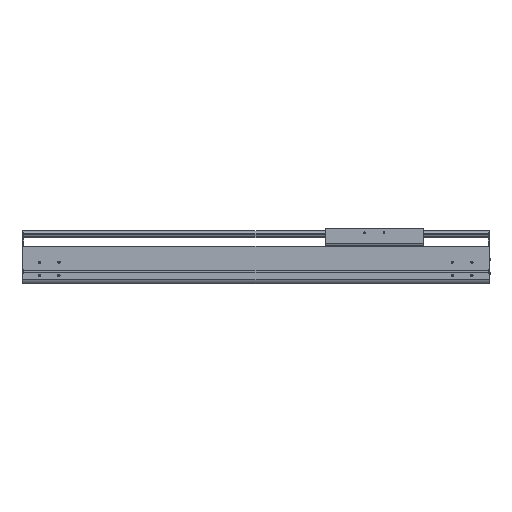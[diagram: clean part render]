
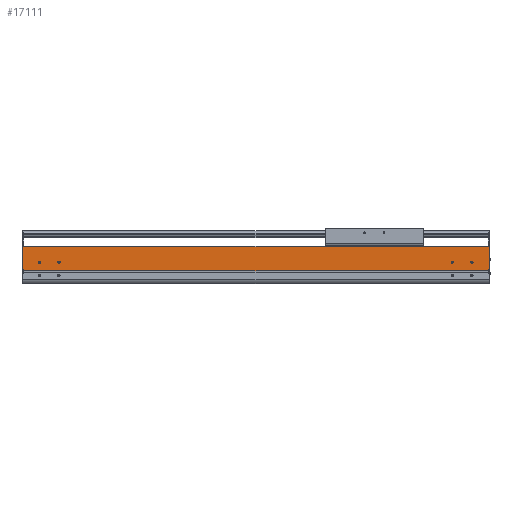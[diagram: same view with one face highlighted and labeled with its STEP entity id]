
A CAD part, top view. The second image highlights one B-rep face of the part: STEP entity #17111.
In plain terms, the highlighted planar face has unit normal (0, 0, 1).
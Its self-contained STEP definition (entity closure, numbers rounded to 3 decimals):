
#2873=DIRECTION('',(1.,0.,0.));
#2874=VECTOR('',#2873,2.);
#2875=CARTESIAN_POINT('',(-1186.,34.65,107.));
#2876=LINE('',#2875,#2874);
#2877=CARTESIAN_POINT('',(-42.,54.,107.));
#2878=DIRECTION('',(0.,0.,-1.));
#2879=DIRECTION('',(1.,0.,0.));
#2880=AXIS2_PLACEMENT_3D('',#2877,#2878,#2879);
#2882=CARTESIAN_POINT('',(-42.,54.,107.));
#2883=DIRECTION('',(0.,0.,-1.));
#2884=DIRECTION('',(-1.,0.,0.));
#2885=AXIS2_PLACEMENT_3D('',#2882,#2883,#2884);
#2887=CARTESIAN_POINT('',(-92.,54.,107.));
#2888=DIRECTION('',(0.,0.,-1.));
#2889=DIRECTION('',(1.,0.,0.));
#2890=AXIS2_PLACEMENT_3D('',#2887,#2888,#2889);
#2892=CARTESIAN_POINT('',(-92.,54.,107.));
#2893=DIRECTION('',(0.,0.,-1.));
#2894=DIRECTION('',(-1.,0.,0.));
#2895=AXIS2_PLACEMENT_3D('',#2892,#2893,#2894);
#2897=CARTESIAN_POINT('',(-1144.,54.,107.));
#2898=DIRECTION('',(0.,0.,-1.));
#2899=DIRECTION('',(1.,0.,0.));
#2900=AXIS2_PLACEMENT_3D('',#2897,#2898,#2899);
#2902=CARTESIAN_POINT('',(-1144.,54.,107.));
#2903=DIRECTION('',(0.,0.,-1.));
#2904=DIRECTION('',(-1.,0.,0.));
#2905=AXIS2_PLACEMENT_3D('',#2902,#2903,#2904);
#2907=CARTESIAN_POINT('',(-1094.,54.,107.));
#2908=DIRECTION('',(0.,0.,-1.));
#2909=DIRECTION('',(1.,0.,0.));
#2910=AXIS2_PLACEMENT_3D('',#2907,#2908,#2909);
#2912=CARTESIAN_POINT('',(-1094.,54.,107.));
#2913=DIRECTION('',(0.,0.,-1.));
#2914=DIRECTION('',(-1.,0.,0.));
#2915=AXIS2_PLACEMENT_3D('',#2912,#2913,#2914);
#2917=DIRECTION('',(0.,-1.,0.));
#2918=VECTOR('',#2917,2.55);
#2919=CARTESIAN_POINT('',(-1184.,34.65,107.));
#2920=LINE('',#2919,#2918);
#2921=DIRECTION('',(0.,-1.,0.));
#2922=VECTOR('',#2921,58.85);
#2923=CARTESIAN_POINT('',(-1186.,93.5,107.));
#2924=LINE('',#2923,#2922);
#2925=DIRECTION('',(0.,1.,0.));
#2926=VECTOR('',#2925,58.85);
#2927=CARTESIAN_POINT('',(2.,34.65,107.));
#2928=LINE('',#2927,#2926);
#2929=DIRECTION('',(0.,1.,0.));
#2930=VECTOR('',#2929,2.55);
#2931=CARTESIAN_POINT('',(0.,32.1,107.));
#2932=LINE('',#2931,#2930);
#3037=DIRECTION('',(-1.,0.,0.));
#3038=VECTOR('',#3037,1188.);
#3039=CARTESIAN_POINT('',(2.,93.5,107.));
#3040=LINE('',#3039,#3038);
#9867=DIRECTION('',(1.,0.,0.));
#9868=VECTOR('',#9867,2.);
#9869=CARTESIAN_POINT('',(0.,34.65,107.));
#9870=LINE('',#9869,#9868);
#9887=DIRECTION('',(1.,0.,0.));
#9888=VECTOR('',#9887,1184.);
#9889=CARTESIAN_POINT('',(-1184.,32.1,107.));
#9890=LINE('',#9889,#9888);
#11041=CARTESIAN_POINT('',(-1186.,34.65,107.));
#11042=VERTEX_POINT('',#11041);
#11043=CARTESIAN_POINT('',(-1186.,93.5,107.));
#11044=VERTEX_POINT('',#11043);
#11265=CARTESIAN_POINT('',(-1184.,32.1,107.));
#11266=VERTEX_POINT('',#11265);
#11337=CARTESIAN_POINT('',(0.,32.1,107.));
#11338=VERTEX_POINT('',#11337);
#11693=CARTESIAN_POINT('',(-39.5,54.,107.));
#11694=CARTESIAN_POINT('',(-44.5,54.,107.));
#11695=VERTEX_POINT('',#11693);
#11696=VERTEX_POINT('',#11694);
#11697=CARTESIAN_POINT('',(-89.5,54.,107.));
#11698=CARTESIAN_POINT('',(-94.5,54.,107.));
#11699=VERTEX_POINT('',#11697);
#11700=VERTEX_POINT('',#11698);
#11701=CARTESIAN_POINT('',(-1141.5,54.,107.));
#11702=CARTESIAN_POINT('',(-1146.5,54.,107.));
#11703=VERTEX_POINT('',#11701);
#11704=VERTEX_POINT('',#11702);
#11705=CARTESIAN_POINT('',(-1091.5,54.,107.));
#11706=CARTESIAN_POINT('',(-1096.5,54.,107.));
#11707=VERTEX_POINT('',#11705);
#11708=VERTEX_POINT('',#11706);
#12734=CARTESIAN_POINT('',(2.,34.65,107.));
#12735=VERTEX_POINT('',#12734);
#12736=CARTESIAN_POINT('',(2.,93.5,107.));
#12737=VERTEX_POINT('',#12736);
#12958=CARTESIAN_POINT('',(0.,34.65,107.));
#12959=VERTEX_POINT('',#12958);
#13270=CARTESIAN_POINT('',(-1184.,34.65,107.));
#13271=VERTEX_POINT('',#13270);
#17069=CARTESIAN_POINT('',(-592.,62.8,107.));
#17070=DIRECTION('',(0.,0.,1.));
#17071=DIRECTION('',(0.,-1.,0.));
#17072=AXIS2_PLACEMENT_3D('',#17069,#17070,#17071);
#17073=PLANE('',#17072);
#17074=ORIENTED_EDGE('',*,*,#14337,.F.);
#17075=ORIENTED_EDGE('',*,*,#17064,.F.);
#17076=ORIENTED_EDGE('',*,*,#14958,.F.);
#17078=ORIENTED_EDGE('',*,*,#17077,.F.);
#17079=ORIENTED_EDGE('',*,*,#14074,.F.);
#17081=ORIENTED_EDGE('',*,*,#17080,.F.);
#17082=ORIENTED_EDGE('',*,*,#16680,.F.);
#17084=ORIENTED_EDGE('',*,*,#17083,.F.);
#17085=EDGE_LOOP('',(#17074,#17075,#17076,#17078,#17079,#17081,#17082,#17084));
#17086=FACE_OUTER_BOUND('',#17085,.F.);
#17088=ORIENTED_EDGE('',*,*,#17087,.F.);
#17090=ORIENTED_EDGE('',*,*,#17089,.F.);
#17091=EDGE_LOOP('',(#17088,#17090));
#17092=FACE_BOUND('',#17091,.F.);
#17094=ORIENTED_EDGE('',*,*,#17093,.F.);
#17096=ORIENTED_EDGE('',*,*,#17095,.F.);
#17097=EDGE_LOOP('',(#17094,#17096));
#17098=FACE_BOUND('',#17097,.F.);
#17100=ORIENTED_EDGE('',*,*,#17099,.F.);
#17102=ORIENTED_EDGE('',*,*,#17101,.F.);
#17103=EDGE_LOOP('',(#17100,#17102));
#17104=FACE_BOUND('',#17103,.F.);
#17106=ORIENTED_EDGE('',*,*,#17105,.F.);
#17108=ORIENTED_EDGE('',*,*,#17107,.F.);
#17109=EDGE_LOOP('',(#17106,#17108));
#17110=FACE_BOUND('',#17109,.F.);
#17111=ADVANCED_FACE('',(#17086,#17092,#17098,#17104,#17110),#17073,.T.);
#2881=CIRCLE('',#2880,2.5);
#2886=CIRCLE('',#2885,2.5);
#2891=CIRCLE('',#2890,2.5);
#2896=CIRCLE('',#2895,2.5);
#2901=CIRCLE('',#2900,2.5);
#2906=CIRCLE('',#2905,2.5);
#2911=CIRCLE('',#2910,2.5);
#2916=CIRCLE('',#2915,2.5);
#14074=EDGE_CURVE('',#12735,#12737,#2928,.T.);
#14337=EDGE_CURVE('',#13271,#11266,#2920,.T.);
#14958=EDGE_CURVE('',#11044,#11042,#2924,.T.);
#16680=EDGE_CURVE('',#11338,#12959,#2932,.T.);
#17064=EDGE_CURVE('',#11042,#13271,#2876,.T.);
#17077=EDGE_CURVE('',#12737,#11044,#3040,.T.);
#17080=EDGE_CURVE('',#12959,#12735,#9870,.T.);
#17083=EDGE_CURVE('',#11266,#11338,#9890,.T.);
#17087=EDGE_CURVE('',#11699,#11700,#2891,.T.);
#17089=EDGE_CURVE('',#11700,#11699,#2896,.T.);
#17093=EDGE_CURVE('',#11703,#11704,#2901,.T.);
#17095=EDGE_CURVE('',#11704,#11703,#2906,.T.);
#17099=EDGE_CURVE('',#11707,#11708,#2911,.T.);
#17101=EDGE_CURVE('',#11708,#11707,#2916,.T.);
#17105=EDGE_CURVE('',#11695,#11696,#2881,.T.);
#17107=EDGE_CURVE('',#11696,#11695,#2886,.T.);
